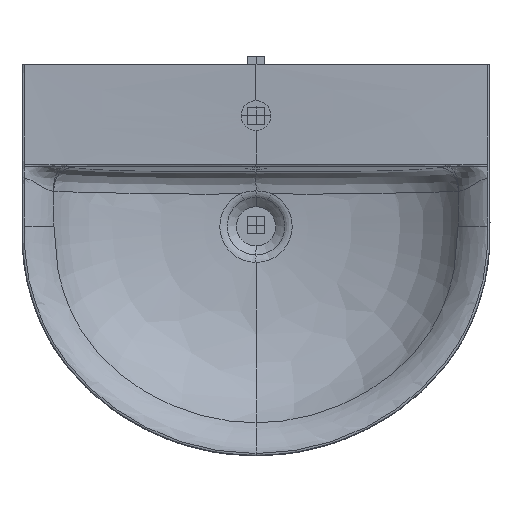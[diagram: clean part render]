
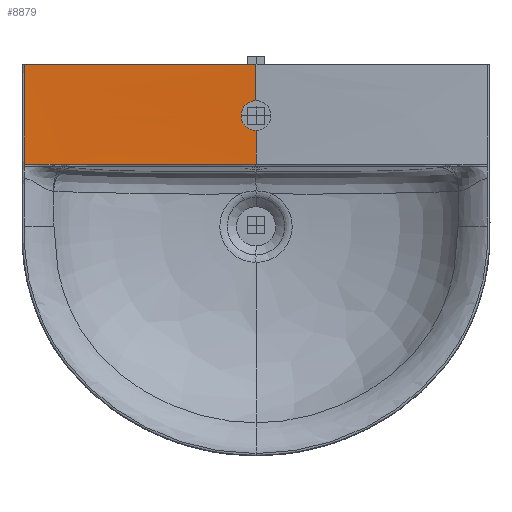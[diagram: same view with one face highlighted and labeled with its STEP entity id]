
A CAD part, top view. The second image highlights one B-rep face of the part: STEP entity #8879.
In plain terms, the highlighted free-form (B-spline) face has degree [3, 3] with [9, 4] control points.
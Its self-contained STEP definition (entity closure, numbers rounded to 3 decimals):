
#413=CARTESIAN_POINT('',(-272.3,0.,
840.003));
#1314=CARTESIAN_POINT('',(-272.165,-117.221,
839.851));
#1325=CARTESIAN_POINT('',(-222.855,-117.221,
839.243));
#1346=CARTESIAN_POINT('',(0.,-42.5,838.516));
#1347=CARTESIAN_POINT('',(-0.916,-42.501,
838.516));
#1348=CARTESIAN_POINT('',(-2.724,-42.641,
838.511));
#1349=CARTESIAN_POINT('',(-5.393,-43.277,
838.49));
#1350=CARTESIAN_POINT('',(-7.926,-44.316,
838.454));
#1351=CARTESIAN_POINT('',(-10.316,-45.771,
838.405));
#1352=CARTESIAN_POINT('',(-12.443,-47.591,
838.344));
#1353=CARTESIAN_POINT('',(-14.224,-49.685,
838.273));
#1354=CARTESIAN_POINT('',(-15.654,-52.017,
838.194));
#1355=CARTESIAN_POINT('',(-16.719,-54.586,
838.107));
#1356=CARTESIAN_POINT('',(-17.36,-57.283,
838.016));
#1357=CARTESIAN_POINT('',(-17.501,-59.089,
837.955));
#1358=CARTESIAN_POINT('',(-17.5,-60.,837.924));
#1360=CARTESIAN_POINT('',(-17.5,-60.,837.924));
#1361=CARTESIAN_POINT('',(-17.503,-60.826,
837.894));
#1362=CARTESIAN_POINT('',(-17.385,-62.475,
837.835));
#1363=CARTESIAN_POINT('',(-16.836,-65.003,
837.744));
#1364=CARTESIAN_POINT('',(-15.926,-67.4,
837.657));
#1365=CARTESIAN_POINT('',(-14.701,-69.597,
837.578));
#1366=CARTESIAN_POINT('',(-13.272,-71.483,
837.51));
#1367=CARTESIAN_POINT('',(-11.718,-73.054,
837.454));
#1368=CARTESIAN_POINT('',(-10.181,-74.272,
837.41));
#1369=CARTESIAN_POINT('',(-8.73,-75.196,
837.377));
#1370=CARTESIAN_POINT('',(-7.333,-75.914,
837.351));
#1371=CARTESIAN_POINT('',(-5.954,-76.478,
837.33));
#1372=CARTESIAN_POINT('',(-4.518,-76.929,
837.314));
#1373=CARTESIAN_POINT('',(-3.029,-77.259,
837.302));
#1374=CARTESIAN_POINT('',(-1.511,-77.457,
837.295));
#1375=CARTESIAN_POINT('',(-0.504,-77.5,
837.294));
#1376=CARTESIAN_POINT('',(0.,-77.5,837.294));
#1378=CARTESIAN_POINT('',(0.,-117.3,835.904));
#1379=CARTESIAN_POINT('',(-74.282,-117.3,
835.904));
#1380=CARTESIAN_POINT('',(-148.557,-117.246,
838.061));
#1381=CARTESIAN_POINT('',(-222.855,-117.221,
839.243));
#1383=CARTESIAN_POINT('',(-222.855,-117.221,
839.243));
#1384=CARTESIAN_POINT('',(-239.291,-117.221,
839.505));
#1385=CARTESIAN_POINT('',(-255.728,-117.221,
839.719));
#1386=CARTESIAN_POINT('',(-272.165,-117.221,
839.851));
#1388=CARTESIAN_POINT('',(-272.165,-117.221,
839.851));
#1389=CARTESIAN_POINT('',(-272.165,-113.142,
839.861));
#1390=CARTESIAN_POINT('',(-272.167,-104.061,
839.883));
#1391=CARTESIAN_POINT('',(-272.181,-90.147,
839.912));
#1392=CARTESIAN_POINT('',(-272.203,-75.391,
839.938));
#1393=CARTESIAN_POINT('',(-272.237,-55.467,
839.968));
#1394=CARTESIAN_POINT('',(-272.282,-30.182,
839.995));
#1395=CARTESIAN_POINT('',(-272.3,-10.028,
840.003));
#1396=CARTESIAN_POINT('',(-272.3,0.,
840.003));
#1398=CARTESIAN_POINT('',(-272.3,0.,
840.003));
#1399=CARTESIAN_POINT('',(-181.533,0.,
839.983));
#1400=CARTESIAN_POINT('',(-90.767,0.,
840.));
#1401=CARTESIAN_POINT('',(0.,0.,840.));
#1403=DIRECTION('',(0.,-0.999,-0.035));
#1404=VECTOR('',#1403,42.526);
#1405=CARTESIAN_POINT('',(0.,0.,840.));
#1406=LINE('',#1405,#1404);
#1432=DIRECTION('',(0.,-0.999,-0.035));
#1433=VECTOR('',#1432,39.825);
#1434=CARTESIAN_POINT('',(0.,-77.5,837.294));
#1435=LINE('',#1434,#1433);
#2923=VERTEX_POINT('',#1325);
#2930=VERTEX_POINT('',#1314);
#2967=VERTEX_POINT('',#413);
#2995=CARTESIAN_POINT('',(0.,0.,840.));
#2996=CARTESIAN_POINT('',(0.,-42.5,838.516));
#2997=VERTEX_POINT('',#2995);
#2998=VERTEX_POINT('',#2996);
#2999=CARTESIAN_POINT('',(0.,-77.5,837.294));
#3000=CARTESIAN_POINT('',(0.,-117.3,835.904));
#3001=VERTEX_POINT('',#2999);
#3002=VERTEX_POINT('',#3000);
#3038=VERTEX_POINT('',#1360);
#8827=CARTESIAN_POINT('',(0.,-117.3,
835.904));
#8828=CARTESIAN_POINT('',(-90.731,-117.3,
835.904));
#8829=CARTESIAN_POINT('',(-181.437,-117.299,
839.12));
#8830=CARTESIAN_POINT('',(-272.165,-117.298,
839.851));
#8831=CARTESIAN_POINT('',(0.,-113.2,
836.047));
#8832=CARTESIAN_POINT('',(-90.731,-113.198,
836.047));
#8833=CARTESIAN_POINT('',(-181.437,-113.196,
839.144));
#8834=CARTESIAN_POINT('',(-272.165,-113.194,
839.861));
#8835=CARTESIAN_POINT('',(0.,-104.1,
836.365));
#8836=CARTESIAN_POINT('',(-90.731,-104.095,
836.365));
#8837=CARTESIAN_POINT('',(-181.439,-104.091,
839.199));
#8838=CARTESIAN_POINT('',(-272.167,-104.087,
839.883));
#8839=CARTESIAN_POINT('',(0.,-90.,836.857));
#8840=CARTESIAN_POINT('',(-90.734,-90.048,
836.855));
#8841=CARTESIAN_POINT('',(-181.449,-90.098,
839.288));
#8842=CARTESIAN_POINT('',(-272.181,-90.147,
839.912));
#8843=CARTESIAN_POINT('',(0.,-75.,837.381));
#8844=CARTESIAN_POINT('',(-90.74,-75.13,
837.376));
#8845=CARTESIAN_POINT('',(-181.465,-75.261,
839.386));
#8846=CARTESIAN_POINT('',(-272.203,-75.391,
839.938));
#8847=CARTESIAN_POINT('',(0.,-55.,838.079));
#8848=CARTESIAN_POINT('',(-90.75,-55.155,
838.074));
#8849=CARTESIAN_POINT('',(-181.489,-55.311,
839.526));
#8850=CARTESIAN_POINT('',(-272.237,-55.467,
839.968));
#8851=CARTESIAN_POINT('',(0.,-30.,838.952));
#8852=CARTESIAN_POINT('',(-90.763,-30.06,
838.95));
#8853=CARTESIAN_POINT('',(-181.52,-30.121,
839.717));
#8854=CARTESIAN_POINT('',(-272.282,-30.182,
839.995));
#8855=CARTESIAN_POINT('',(0.,-10.,839.651));
#8856=CARTESIAN_POINT('',(-90.767,-10.009,
839.65));
#8857=CARTESIAN_POINT('',(-181.533,-10.018,
839.89));
#8858=CARTESIAN_POINT('',(-272.3,-10.027,
840.003));
#8859=CARTESIAN_POINT('',(0.,0.,840.));
#8860=CARTESIAN_POINT('',(-90.767,0.,
840.));
#8861=CARTESIAN_POINT('',(-181.533,0.,
839.983));
#8862=CARTESIAN_POINT('',(-272.3,0.,
840.003));
#8863=B_SPLINE_SURFACE_WITH_KNOTS('',3,3,((#8827,#8828,#8829,#8830),(#8831,
#8832,#8833,#8834),(#8835,#8836,#8837,#8838),(#8839,#8840,#8841,#8842),(#8843,
#8844,#8845,#8846),(#8847,#8848,#8849,#8850),(#8851,#8852,#8853,#8854),(#8855,
#8856,#8857,#8858),(#8859,#8860,#8861,#8862)),.UNSPECIFIED.,.F.,.F.,.F.,(4,1,1,
1,1,1,4),(4,4),(0.022,0.125,0.25,0.375,0.5,0.75,1.),(
0.,1.),.UNSPECIFIED.);
#8865=ORIENTED_EDGE('',*,*,#8864,.T.);
#8867=ORIENTED_EDGE('',*,*,#8866,.T.);
#8869=ORIENTED_EDGE('',*,*,#8868,.T.);
#8871=ORIENTED_EDGE('',*,*,#8870,.T.);
#8872=ORIENTED_EDGE('',*,*,#8632,.T.);
#8873=ORIENTED_EDGE('',*,*,#8819,.T.);
#8874=ORIENTED_EDGE('',*,*,#5156,.T.);
#8876=ORIENTED_EDGE('',*,*,#8875,.T.);
#8877=EDGE_LOOP('',(#8865,#8867,#8869,#8871,#8872,#8873,#8874,#8876));
#8878=FACE_OUTER_BOUND('',#8877,.F.);
#8879=ADVANCED_FACE('',(#8878),#8863,.F.);
#1359=B_SPLINE_CURVE_WITH_KNOTS('',3,(#1346,#1347,#1348,#1349,#1350,#1351,#1352,
#1353,#1354,#1355,#1356,#1357,#1358),.UNSPECIFIED.,.F.,.F.,(4,1,1,1,1,1,1,1,1,1,
4),(0.,0.1,0.2,0.3,0.4,0.5,0.6,0.7,0.8,0.9,1.),
.UNSPECIFIED.);
#1377=B_SPLINE_CURVE_WITH_KNOTS('',3,(#1360,#1361,#1362,#1363,#1364,#1365,#1366,
#1367,#1368,#1369,#1370,#1371,#1372,#1373,#1374,#1375,#1376),.UNSPECIFIED.,.F.,
.F.,(4,1,1,1,1,1,1,1,1,1,1,1,1,1,4),(0.,0.071,0.143,
0.214,0.286,0.357,0.429,0.5,
0.571,0.643,0.714,0.786,
0.857,0.929,1.),.UNSPECIFIED.);
#1382=B_SPLINE_CURVE_WITH_KNOTS('',3,(#1378,#1379,#1380,#1381),.UNSPECIFIED.,
.F.,.F.,(4,4),(0.,1.),.UNSPECIFIED.);
#1387=B_SPLINE_CURVE_WITH_KNOTS('',3,(#1383,#1384,#1385,#1386),.UNSPECIFIED.,
.F.,.F.,(4,4),(0.,1.),.UNSPECIFIED.);
#1397=B_SPLINE_CURVE_WITH_KNOTS('',3,(#1388,#1389,#1390,#1391,#1392,#1393,#1394,
#1395,#1396),.UNSPECIFIED.,.F.,.F.,(4,1,1,1,1,1,4),(0.,0.104,
0.232,0.36,0.488,0.744,1.),
.UNSPECIFIED.);
#1402=B_SPLINE_CURVE_WITH_KNOTS('',3,(#1398,#1399,#1400,#1401),.UNSPECIFIED.,
.F.,.F.,(4,4),(0.,1.),.UNSPECIFIED.);
#5156=EDGE_CURVE('',#2930,#2967,#1397,.T.);
#8632=EDGE_CURVE('',#3002,#2923,#1382,.T.);
#8819=EDGE_CURVE('',#2923,#2930,#1387,.T.);
#8864=EDGE_CURVE('',#2997,#2998,#1406,.T.);
#8866=EDGE_CURVE('',#2998,#3038,#1359,.T.);
#8868=EDGE_CURVE('',#3038,#3001,#1377,.T.);
#8870=EDGE_CURVE('',#3001,#3002,#1435,.T.);
#8875=EDGE_CURVE('',#2967,#2997,#1402,.T.);
